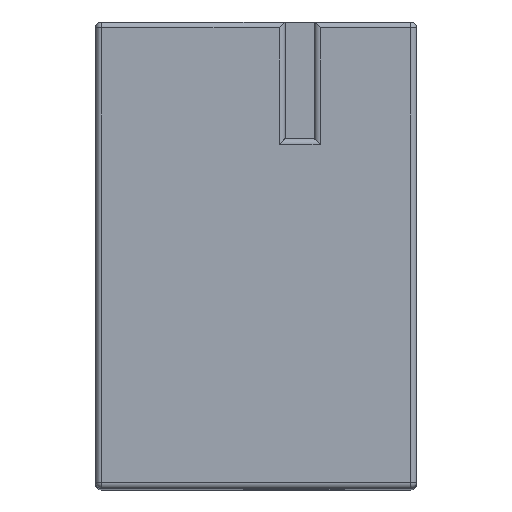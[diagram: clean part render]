
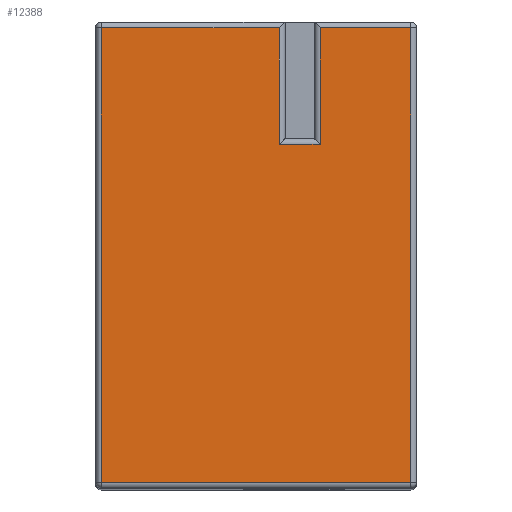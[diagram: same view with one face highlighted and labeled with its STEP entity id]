
A CAD part, top view. The second image highlights one B-rep face of the part: STEP entity #12388.
In plain terms, the highlighted planar face has unit normal (0, 0, 1).
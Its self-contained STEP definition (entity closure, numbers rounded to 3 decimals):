
#51 = LINE ( 'NONE', #8824, #2646 ) ;
#68 = CARTESIAN_POINT ( 'NONE',  ( -0.35, 5.9, 7. ) ) ;
#73 = ORIENTED_EDGE ( 'NONE', *, *, #4009, .T. ) ;
#104 = CARTESIAN_POINT ( 'NONE',  ( 0., 0., 7. ) ) ;
#288 = LINE ( 'NONE', #4666, #6627 ) ;
#546 = DIRECTION ( 'NONE',  ( 0., -1., 0. ) ) ;
#1262 = VECTOR ( 'NONE', #6388, 1000. ) ;
#1321 = DIRECTION ( 'NONE',  ( 0., 0., 1. ) ) ;
#1736 = VERTEX_POINT ( 'NONE', #68 ) ;
#1759 = LINE ( 'NONE', #8451, #6780 ) ;
#1787 = CARTESIAN_POINT ( 'NONE',  ( 0., 7.9, 7. ) ) ;
#1868 = VERTEX_POINT ( 'NONE', #13514 ) ;
#1997 = CARTESIAN_POINT ( 'NONE',  ( 1.9, 8., 7. ) ) ;
#2096 = VERTEX_POINT ( 'NONE', #7760 ) ;
#2388 = EDGE_CURVE ( 'NONE', #7405, #1868, #7355, .T. ) ;
#2646 = VECTOR ( 'NONE', #7753, 1000. ) ;
#2732 = LINE ( 'NONE', #9421, #8888 ) ;
#2748 = VERTEX_POINT ( 'NONE', #6408 ) ;
#2904 = EDGE_CURVE ( 'NONE', #1868, #1736, #288, .T. ) ;
#2935 = LINE ( 'NONE', #1787, #9767 ) ;
#3210 = EDGE_CURVE ( 'NONE', #2096, #7494, #12932, .T. ) ;
#4009 = EDGE_CURVE ( 'NONE', #7494, #2748, #1759, .T. ) ;
#4381 = EDGE_LOOP ( 'NONE', ( #9969, #13021, #11073, #8559, #9836, #6289, #73, #12718 ) ) ;
#4541 = VECTOR ( 'NONE', #10013, 1000. ) ;
#4549 = VECTOR ( 'NONE', #8619, 1000. ) ;
#4625 = PLANE ( 'NONE',  #8602 ) ;
#4666 = CARTESIAN_POINT ( 'NONE',  ( -0.25, 5.9, 7. ) ) ;
#4854 = EDGE_CURVE ( 'NONE', #5833, #10417, #11847, .T. ) ;
#5303 = CARTESIAN_POINT ( 'NONE',  ( 0., 7.9, 7. ) ) ;
#5473 = CARTESIAN_POINT ( 'NONE',  ( -3.4, 7.9, 7. ) ) ;
#5833 = VERTEX_POINT ( 'NONE', #7913 ) ;
#5954 = EDGE_CURVE ( 'NONE', #10417, #7405, #2935, .T. ) ;
#6289 = ORIENTED_EDGE ( 'NONE', *, *, #3210, .T. ) ;
#6388 = DIRECTION ( 'NONE',  ( 0., 1., 0. ) ) ;
#6408 = CARTESIAN_POINT ( 'NONE',  ( -3.4, 0.1, 7. ) ) ;
#6502 = FACE_OUTER_BOUND ( 'NONE', #4381, .T. ) ;
#6627 = VECTOR ( 'NONE', #7634, 1000. ) ;
#6780 = VECTOR ( 'NONE', #546, 1000. ) ;
#7355 = LINE ( 'NONE', #11743, #4541 ) ;
#7405 = VERTEX_POINT ( 'NONE', #12637 ) ;
#7494 = VERTEX_POINT ( 'NONE', #5473 ) ;
#7634 = DIRECTION ( 'NONE',  ( -1., 0., 0. ) ) ;
#7753 = DIRECTION ( 'NONE',  ( 1., 0., 0. ) ) ;
#7760 = CARTESIAN_POINT ( 'NONE',  ( -0.35, 7.9, 7. ) ) ;
#7913 = CARTESIAN_POINT ( 'NONE',  ( 1.9, 0.1, 7. ) ) ;
#8451 = CARTESIAN_POINT ( 'NONE',  ( -3.4, 0., 7. ) ) ;
#8559 = ORIENTED_EDGE ( 'NONE', *, *, #2904, .T. ) ;
#8602 = AXIS2_PLACEMENT_3D ( 'NONE', #104, #1321, #13124 ) ;
#8619 = DIRECTION ( 'NONE',  ( -1., 0., 0. ) ) ;
#8824 = CARTESIAN_POINT ( 'NONE',  ( 2., 0.1, 7. ) ) ;
#8888 = VECTOR ( 'NONE', #10294, 1000. ) ;
#9421 = CARTESIAN_POINT ( 'NONE',  ( -0.35, 8., 7. ) ) ;
#9767 = VECTOR ( 'NONE', #12652, 1000. ) ;
#9836 = ORIENTED_EDGE ( 'NONE', *, *, #10152, .T. ) ;
#9969 = ORIENTED_EDGE ( 'NONE', *, *, #4854, .T. ) ;
#10013 = DIRECTION ( 'NONE',  ( 0., -1., 0. ) ) ;
#10152 = EDGE_CURVE ( 'NONE', #1736, #2096, #2732, .T. ) ;
#10294 = DIRECTION ( 'NONE',  ( 0., 1., 0. ) ) ;
#10417 = VERTEX_POINT ( 'NONE', #10999 ) ;
#10999 = CARTESIAN_POINT ( 'NONE',  ( 1.9, 7.9, 7. ) ) ;
#11073 = ORIENTED_EDGE ( 'NONE', *, *, #2388, .T. ) ;
#11743 = CARTESIAN_POINT ( 'NONE',  ( 0.35, 6., 7. ) ) ;
#11847 = LINE ( 'NONE', #1997, #1262 ) ;
#12388 = ADVANCED_FACE ( 'NONE', ( #6502 ), #4625, .T. ) ;
#12637 = CARTESIAN_POINT ( 'NONE',  ( 0.35, 7.9, 7. ) ) ;
#12652 = DIRECTION ( 'NONE',  ( -1., 0., 0. ) ) ;
#12718 = ORIENTED_EDGE ( 'NONE', *, *, #13383, .T. ) ;
#12932 = LINE ( 'NONE', #5303, #4549 ) ;
#13021 = ORIENTED_EDGE ( 'NONE', *, *, #5954, .T. ) ;
#13124 = DIRECTION ( 'NONE',  ( 1., 0., 0. ) ) ;
#13383 = EDGE_CURVE ( 'NONE', #2748, #5833, #51, .T. ) ;
#13514 = CARTESIAN_POINT ( 'NONE',  ( 0.35, 5.9, 7. ) ) ;
